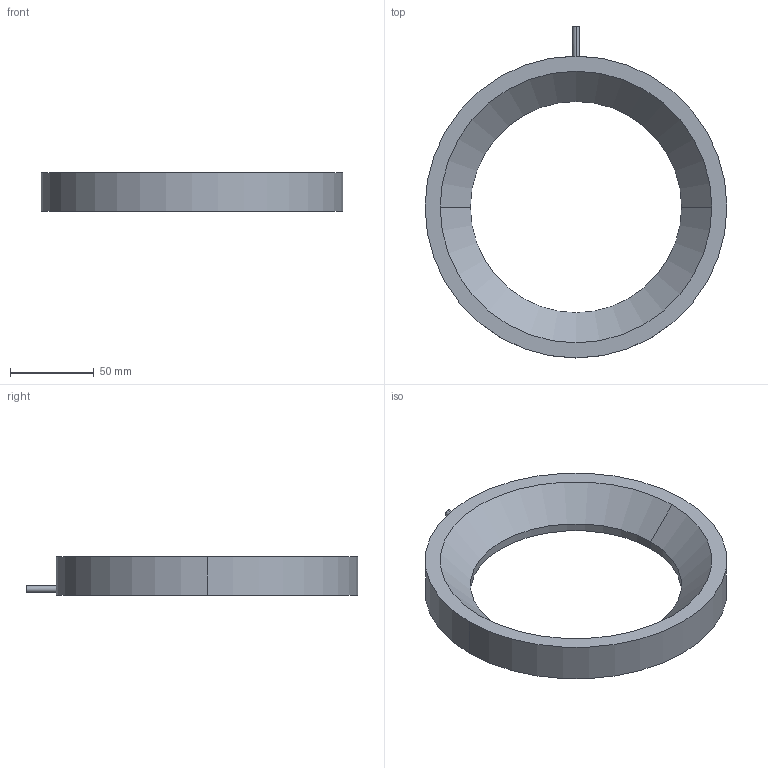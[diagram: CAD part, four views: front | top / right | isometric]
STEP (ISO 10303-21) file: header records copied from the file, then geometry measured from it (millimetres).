
FILE_DESCRIPTION (( 'STEP AP203' ), '1' );
FILE_NAME ('CRT-RL18060-¼òÒ×3DÍ¼.STEP', '2021-12-21T09:54:22', ( 'Admin' ), ( '' ), 'SwSTEP 2.0', 'SolidWorks 2018', '' );
FILE_SCHEMA (( 'CONFIG_CONTROL_DESIGN' ));
Length unit declared in the file: millimetre
Products named in the file (1): CRT-RL18060-潠眢3D芞
Bounding box: 180 x 198 x 23 mm (x, y, z)
Volume: 228371.6 mm3; surface area: 44711.9 mm2
Topology: 1 solids, 1 shells, 35 faces, 78 edges, 42 vertices
Faces by surface type: cone 18, cylinder 14, plane 3
Entity records: 1041 total; most frequent: CARTESIAN_POINT 204, DIRECTION 176, ORIENTED_EDGE 140, AXIS2_PLACEMENT_3D 72, EDGE_CURVE 70, EDGE_LOOP 42, VERTEX_POINT 42, CIRCLE 36
